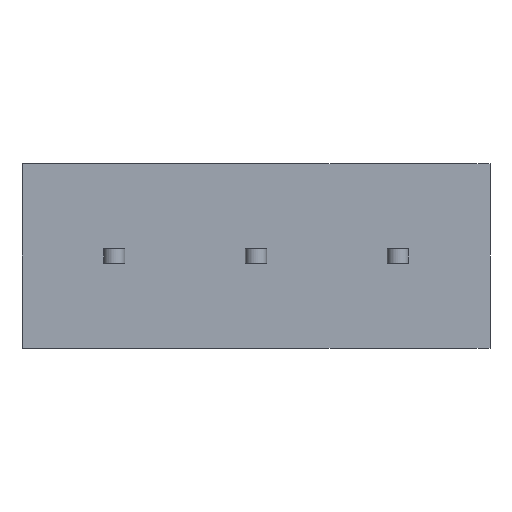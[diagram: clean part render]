
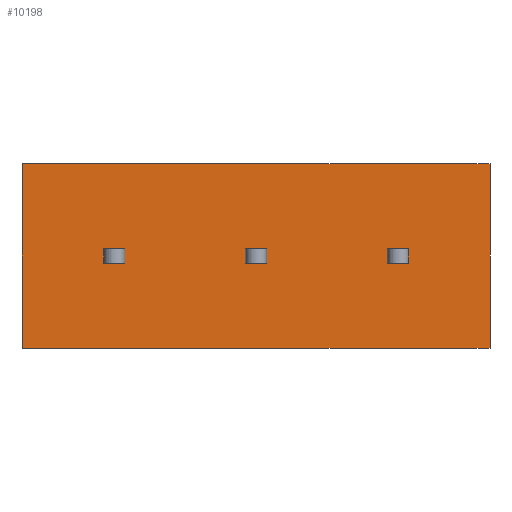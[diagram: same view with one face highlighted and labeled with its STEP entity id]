
A CAD part, front view. The second image highlights one B-rep face of the part: STEP entity #10198.
In plain terms, the highlighted planar face has unit normal (0, -1, 0).
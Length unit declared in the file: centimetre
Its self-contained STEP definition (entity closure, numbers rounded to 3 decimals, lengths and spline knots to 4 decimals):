
#637=VECTOR('',#11025,1.);
#640=VECTOR('',#11031,1.);
#644=VECTOR('',#11040,1.);
#646=VECTOR('',#11043,1.);
#1054=VECTOR('',#11596,1.);
#1141=VECTOR('',#11814,1.);
#1145=VECTOR('',#11819,1.);
#1147=VECTOR('',#11824,1.);
#1150=VECTOR('',#11832,1.);
#1255=VECTOR('',#12080,1.);
#1259=VECTOR('',#12085,1.);
#1261=VECTOR('',#12090,1.);
#1264=VECTOR('',#12098,1.);
#1319=VECTOR('',#12187,1.);
#1327=VECTOR('',#12196,1.);
#1328=VECTOR('',#12197,1.);
#1817=LINE('',#13028,#637);
#1820=LINE('',#13037,#640);
#1824=LINE('',#13047,#644);
#1826=LINE('',#13051,#646);
#2234=LINE('',#14564,#1054);
#2321=LINE('',#14866,#1141);
#2325=LINE('',#14875,#1145);
#2327=LINE('',#14881,#1147);
#2330=LINE('',#14889,#1150);
#2435=LINE('',#15227,#1255);
#2439=LINE('',#15236,#1259);
#2441=LINE('',#15242,#1261);
#2444=LINE('',#15250,#1264);
#2499=LINE('',#15363,#1319);
#2507=LINE('',#15380,#1327);
#2508=LINE('',#15381,#1328);
#3012=VERTEX_POINT('',#13029);
#3013=VERTEX_POINT('',#13030);
#3016=VERTEX_POINT('',#13038);
#3019=VERTEX_POINT('',#13048);
#3356=VERTEX_POINT('',#14562);
#3358=VERTEX_POINT('',#14565);
#3451=VERTEX_POINT('',#14867);
#3452=VERTEX_POINT('',#14868);
#3455=VERTEX_POINT('',#14876);
#3457=VERTEX_POINT('',#14882);
#3558=VERTEX_POINT('',#15228);
#3559=VERTEX_POINT('',#15229);
#3562=VERTEX_POINT('',#15237);
#3564=VERTEX_POINT('',#15243);
#3594=VERTEX_POINT('',#15364);
#3595=VERTEX_POINT('',#15365);
#4093=EDGE_CURVE('',#3012,#3013,#1817,.T.);
#4097=EDGE_CURVE('',#3013,#3016,#1820,.T.);
#4102=EDGE_CURVE('',#3016,#3019,#1824,.T.);
#4104=EDGE_CURVE('',#3019,#3012,#1826,.T.);
#4618=EDGE_CURVE('',#3358,#3356,#2234,.T.);
#4748=EDGE_CURVE('',#3451,#3452,#2321,.T.);
#4752=EDGE_CURVE('',#3455,#3451,#2325,.T.);
#4755=EDGE_CURVE('',#3452,#3457,#2327,.T.);
#4759=EDGE_CURVE('',#3457,#3455,#2330,.T.);
#4907=EDGE_CURVE('',#3558,#3559,#2435,.T.);
#4911=EDGE_CURVE('',#3562,#3558,#2439,.T.);
#4914=EDGE_CURVE('',#3559,#3564,#2441,.T.);
#4918=EDGE_CURVE('',#3564,#3562,#2444,.T.);
#4975=EDGE_CURVE('',#3594,#3595,#2499,.T.);
#4983=EDGE_CURVE('',#3595,#3358,#2507,.T.);
#4984=EDGE_CURVE('',#3594,#3356,#2508,.T.);
#7449=ORIENTED_EDGE('',*,*,#4102,.F.);
#7450=ORIENTED_EDGE('',*,*,#4097,.F.);
#7451=ORIENTED_EDGE('',*,*,#4093,.F.);
#7452=ORIENTED_EDGE('',*,*,#4104,.F.);
#7453=ORIENTED_EDGE('',*,*,#4752,.T.);
#7454=ORIENTED_EDGE('',*,*,#4748,.T.);
#7455=ORIENTED_EDGE('',*,*,#4755,.T.);
#7456=ORIENTED_EDGE('',*,*,#4759,.T.);
#7457=ORIENTED_EDGE('',*,*,#4911,.T.);
#7458=ORIENTED_EDGE('',*,*,#4907,.T.);
#7459=ORIENTED_EDGE('',*,*,#4914,.T.);
#7460=ORIENTED_EDGE('',*,*,#4918,.T.);
#7461=ORIENTED_EDGE('',*,*,#4983,.T.);
#7462=ORIENTED_EDGE('',*,*,#4618,.T.);
#7463=ORIENTED_EDGE('',*,*,#4984,.F.);
#7464=ORIENTED_EDGE('',*,*,#4975,.T.);
#8976=EDGE_LOOP('',(#7449,#7450,#7451,#7452));
#8977=EDGE_LOOP('',(#7453,#7454,#7455,#7456));
#8978=EDGE_LOOP('',(#7457,#7458,#7459,#7460));
#8979=EDGE_LOOP('',(#7461,#7462,#7463,#7464));
#9606=FACE_BOUND('',#8976,.T.);
#9607=FACE_BOUND('',#8977,.T.);
#9608=FACE_BOUND('',#8978,.T.);
#9609=FACE_BOUND('',#8979,.T.);
#10198=ADVANCED_FACE('',(#9606,#9607,#9608,#9609),#10687,.T.);
#10687=PLANE('',#17366);
#11025=DIRECTION('',(1.,0.,0.));
#11031=DIRECTION('',(0.,0.,1.));
#11040=DIRECTION('',(-1.,0.,0.));
#11043=DIRECTION('',(0.,0.,-1.));
#11596=DIRECTION('',(0.,0.,1.));
#11814=DIRECTION('',(0.,0.,-1.));
#11819=DIRECTION('',(1.,0.,0.));
#11824=DIRECTION('',(-1.,0.,0.));
#11832=DIRECTION('',(0.,0.,1.));
#12080=DIRECTION('',(0.,0.,-1.));
#12085=DIRECTION('',(1.,0.,0.));
#12090=DIRECTION('',(-1.,0.,0.));
#12098=DIRECTION('',(0.,0.,1.));
#12187=DIRECTION('',(0.,0.,-1.));
#12195=DIRECTION('',(0.,-1.,0.));
#12196=DIRECTION('',(1.,0.,0.));
#12197=DIRECTION('',(1.,0.,0.));
#13028=CARTESIAN_POINT('',(-0.63,0.,-0.05));
#13029=CARTESIAN_POINT('',(-0.495,0.,-0.05));
#13030=CARTESIAN_POINT('',(-0.345,0.,-0.05));
#13037=CARTESIAN_POINT('',(-0.345,0.,0.));
#13038=CARTESIAN_POINT('',(-0.345,0.,0.05));
#13047=CARTESIAN_POINT('',(-0.63,0.,0.05));
#13048=CARTESIAN_POINT('',(-0.495,0.,0.05));
#13051=CARTESIAN_POINT('',(-0.495,0.,0.));
#14562=CARTESIAN_POINT('',(2.23,0.,0.65));
#14564=CARTESIAN_POINT('',(2.23,0.,0.65));
#14565=CARTESIAN_POINT('',(2.23,0.,-0.65));
#14866=CARTESIAN_POINT('',(1.655,0.,0.));
#14867=CARTESIAN_POINT('',(1.655,0.,0.05));
#14868=CARTESIAN_POINT('',(1.655,0.,-0.05));
#14875=CARTESIAN_POINT('',(0.79,0.,0.05));
#14876=CARTESIAN_POINT('',(1.505,0.,0.05));
#14881=CARTESIAN_POINT('',(0.79,0.,-0.05));
#14882=CARTESIAN_POINT('',(1.505,0.,-0.05));
#14889=CARTESIAN_POINT('',(1.505,0.,0.));
#15227=CARTESIAN_POINT('',(0.655,0.,0.));
#15228=CARTESIAN_POINT('',(0.655,0.,0.05));
#15229=CARTESIAN_POINT('',(0.655,0.,-0.05));
#15236=CARTESIAN_POINT('',(0.29,0.,0.05));
#15237=CARTESIAN_POINT('',(0.505,0.,0.05));
#15242=CARTESIAN_POINT('',(0.29,0.,-0.05));
#15243=CARTESIAN_POINT('',(0.505,0.,-0.05));
#15250=CARTESIAN_POINT('',(0.505,0.,0.));
#15363=CARTESIAN_POINT('',(-1.07,0.,0.65));
#15364=CARTESIAN_POINT('',(-1.07,0.,0.65));
#15365=CARTESIAN_POINT('',(-1.07,0.,-0.65));
#15379=CARTESIAN_POINT('',(-1.07,0.,0.));
#15380=CARTESIAN_POINT('',(-1.07,0.,-0.65));
#15381=CARTESIAN_POINT('',(-1.07,0.,0.65));
#17366=AXIS2_PLACEMENT_3D('',#15379,#12195,$);
